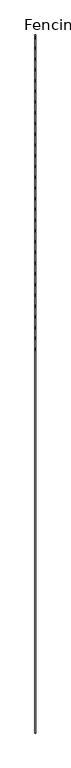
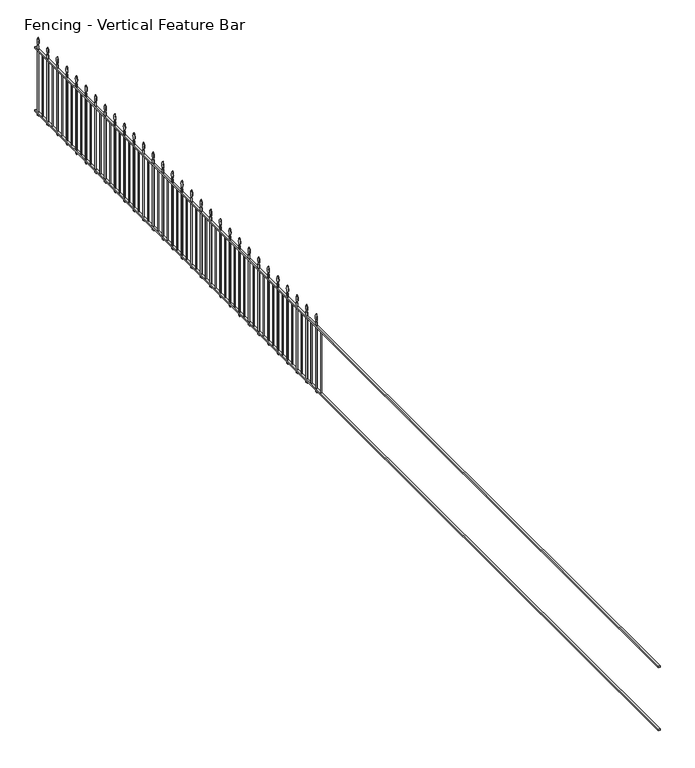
"""IFC4 building model written with IfcOpenShell, lengths in millimetres: railing geometry, Fencing - Vertical Feature Bar."""

from ifc_helpers import new_model, si_unit, point, frame, frame_2d, origin, place, context, project, spatial, polyline, circle_curve, trimmed, segment, composite_curve, outline, extrude, source, transform, mapped, element, save


def fencing_vertical_feature_bar_1ee3314e(model_context):
    return source(origin(), model_context, "Body", "SweptSolid", [
        extrude(outline(polyline([(46183.4324334, -56479.0868221), (46163.4324334, -56479.0868221), (46163.4324334, -43479.0868221), (46183.4324334, -43479.0868221), (46183.4324334, -56479.0868221)])), frame((0.0, 0.0, 880.0), z_axis=(0.0, 0.0, 1.0), x_axis=(1.0, 0.0, 0.0)), (0.0, 0.0, 1.0), 20.0),
        extrude(outline(polyline([(46183.4324334, -56479.0868221), (46163.4324334, -56479.0868221), (46163.4324334, -43479.0868221), (46183.4324334, -43479.0868221), (46183.4324334, -56479.0868221)])), frame((0.0, 0.0, 80.0), z_axis=(0.0, 0.0, 1.0), x_axis=(1.0, 0.0, 0.0)), (0.0, 0.0, 1.0), 20.0),
        extrude(outline(composite_curve([segment(polyline([(-43531.9450079, 950.0), (-43531.9450079, 955.0)]), True, "CONTINUOUS"), segment(trimmed(circle_curve(frame_2d((-43478.8047438, 998.5697142)), 68.7183212), [point((-43531.9450079, 955.0))], [point((-43529.0868221, 1045.4090168))], False, "CARTESIAN"), True, "CONTINUOUS"), segment(trimmed(circle_curve(frame_2d((-43579.3689003, 998.5697142)), 68.7183212), [point((-43529.0868221, 1045.4090168))], [point((-43526.2286362, 955.0))], False, "CARTESIAN"), True, "CONTINUOUS"), segment(polyline([(-43526.2286362, 955.0), (-43526.2286362, 950.0), (-43531.9450079, 950.0)]), True, "CONTINUOUS")], self_intersect=False)), frame((46170.9324334, 0.0, 0.0), z_axis=(1.0, 0.0, 0.0), x_axis=(0.0, 1.0, 0.0)), (0.0, 0.0, 1.0), 5.0),
        extrude(outline(polyline([(46170.9324334, -43516.5868221), (46175.9324334, -43516.5868221), (46175.9324334, -43541.5868221), (46170.9324334, -43541.5868221), (46170.9324334, -43516.5868221)])), frame((0.0, 0.0, 50.0), z_axis=(0.0, 0.0, 1.0), x_axis=(1.0, 0.0, 0.0)), (0.0, 0.0, 1.0), 900.0),
        extrude(outline(polyline([(46177.4324334, -43633.0868221), (46169.4324334, -43633.0868221), (46169.4324334, -43625.0868221), (46177.4324334, -43625.0868221), (46177.4324334, -43633.0868221)])), frame((0.0, 0.0, 100.0), z_axis=(0.0, 0.0, 1.0), x_axis=(1.0, 0.0, 0.0)), (0.0, 0.0, 1.0), 780.0),
        extrude(outline(composite_curve([segment(polyline([(-43731.9450079, 950.0), (-43731.9450079, 955.0)]), True, "CONTINUOUS"), segment(trimmed(circle_curve(frame_2d((-43678.8047438, 998.5697142)), 68.7183212), [point((-43731.9450079, 955.0))], [point((-43729.0868221, 1045.4090168))], False, "CARTESIAN"), True, "CONTINUOUS"), segment(trimmed(circle_curve(frame_2d((-43779.3689003, 998.5697142)), 68.7183212), [point((-43729.0868221, 1045.4090168))], [point((-43726.2286362, 955.0))], False, "CARTESIAN"), True, "CONTINUOUS"), segment(polyline([(-43726.2286362, 955.0), (-43726.2286362, 950.0), (-43731.9450079, 950.0)]), True, "CONTINUOUS")], self_intersect=False)), frame((46170.9324334, 0.0, 0.0), z_axis=(1.0, 0.0, 0.0), x_axis=(0.0, 1.0, 0.0)), (0.0, 0.0, 1.0), 5.0),
        extrude(outline(polyline([(46170.9324334, -43716.5868221), (46175.9324334, -43716.5868221), (46175.9324334, -43741.5868221), (46170.9324334, -43741.5868221), (46170.9324334, -43716.5868221)])), frame((0.0, 0.0, 50.0), z_axis=(0.0, 0.0, 1.0), x_axis=(1.0, 0.0, 0.0)), (0.0, 0.0, 1.0), 900.0),
        extrude(outline(polyline([(46177.4324334, -43833.0868221), (46169.4324334, -43833.0868221), (46169.4324334, -43825.0868221), (46177.4324334, -43825.0868221), (46177.4324334, -43833.0868221)])), frame((0.0, 0.0, 100.0), z_axis=(0.0, 0.0, 1.0), x_axis=(1.0, 0.0, 0.0)), (0.0, 0.0, 1.0), 780.0),
        extrude(outline(composite_curve([segment(polyline([(-43931.9450079, 950.0), (-43931.9450079, 955.0)]), True, "CONTINUOUS"), segment(trimmed(circle_curve(frame_2d((-43878.8047438, 998.5697142)), 68.7183212), [point((-43931.9450079, 955.0))], [point((-43929.0868221, 1045.4090168))], False, "CARTESIAN"), True, "CONTINUOUS"), segment(trimmed(circle_curve(frame_2d((-43979.3689003, 998.5697142)), 68.7183212), [point((-43929.0868221, 1045.4090168))], [point((-43926.2286362, 955.0))], False, "CARTESIAN"), True, "CONTINUOUS"), segment(polyline([(-43926.2286362, 955.0), (-43926.2286362, 950.0), (-43931.9450079, 950.0)]), True, "CONTINUOUS")], self_intersect=False)), frame((46170.9324334, 0.0, 0.0), z_axis=(1.0, 0.0, 0.0), x_axis=(0.0, 1.0, 0.0)), (0.0, 0.0, 1.0), 5.0),
        extrude(outline(polyline([(46170.9324334, -43916.5868221), (46175.9324334, -43916.5868221), (46175.9324334, -43941.5868221), (46170.9324334, -43941.5868221), (46170.9324334, -43916.5868221)])), frame((0.0, 0.0, 50.0), z_axis=(0.0, 0.0, 1.0), x_axis=(1.0, 0.0, 0.0)), (0.0, 0.0, 1.0), 900.0),
        extrude(outline(polyline([(46177.4324334, -44033.0868221), (46169.4324334, -44033.0868221), (46169.4324334, -44025.0868221), (46177.4324334, -44025.0868221), (46177.4324334, -44033.0868221)])), frame((0.0, 0.0, 100.0), z_axis=(0.0, 0.0, 1.0), x_axis=(1.0, 0.0, 0.0)), (0.0, 0.0, 1.0), 780.0),
        extrude(outline(composite_curve([segment(polyline([(-44131.9450079, 950.0), (-44131.9450079, 955.0)]), True, "CONTINUOUS"), segment(trimmed(circle_curve(frame_2d((-44078.8047438, 998.5697142)), 68.7183212), [point((-44131.9450079, 955.0))], [point((-44129.0868221, 1045.4090168))], False, "CARTESIAN"), True, "CONTINUOUS"), segment(trimmed(circle_curve(frame_2d((-44179.3689003, 998.5697142)), 68.7183212), [point((-44129.0868221, 1045.4090168))], [point((-44126.2286362, 955.0))], False, "CARTESIAN"), True, "CONTINUOUS"), segment(polyline([(-44126.2286362, 955.0), (-44126.2286362, 950.0), (-44131.9450079, 950.0)]), True, "CONTINUOUS")], self_intersect=False)), frame((46170.9324334, 0.0, 0.0), z_axis=(1.0, 0.0, 0.0), x_axis=(0.0, 1.0, 0.0)), (0.0, 0.0, 1.0), 5.0),
        extrude(outline(polyline([(46170.9324334, -44116.5868221), (46175.9324334, -44116.5868221), (46175.9324334, -44141.5868221), (46170.9324334, -44141.5868221), (46170.9324334, -44116.5868221)])), frame((0.0, 0.0, 50.0), z_axis=(0.0, 0.0, 1.0), x_axis=(1.0, 0.0, 0.0)), (0.0, 0.0, 1.0), 900.0),
        extrude(outline(polyline([(46177.4324334, -44233.0868221), (46169.4324334, -44233.0868221), (46169.4324334, -44225.0868221), (46177.4324334, -44225.0868221), (46177.4324334, -44233.0868221)])), frame((0.0, 0.0, 100.0), z_axis=(0.0, 0.0, 1.0), x_axis=(1.0, 0.0, 0.0)), (0.0, 0.0, 1.0), 780.0),
        extrude(outline(composite_curve([segment(polyline([(-44331.9450079, 950.0), (-44331.9450079, 955.0)]), True, "CONTINUOUS"), segment(trimmed(circle_curve(frame_2d((-44278.8047438, 998.5697142)), 68.7183212), [point((-44331.9450079, 955.0))], [point((-44329.0868221, 1045.4090168))], False, "CARTESIAN"), True, "CONTINUOUS"), segment(trimmed(circle_curve(frame_2d((-44379.3689003, 998.5697142)), 68.7183212), [point((-44329.0868221, 1045.4090168))], [point((-44326.2286362, 955.0))], False, "CARTESIAN"), True, "CONTINUOUS"), segment(polyline([(-44326.2286362, 955.0), (-44326.2286362, 950.0), (-44331.9450079, 950.0)]), True, "CONTINUOUS")], self_intersect=False)), frame((46170.9324334, 0.0, 0.0), z_axis=(1.0, 0.0, 0.0), x_axis=(0.0, 1.0, 0.0)), (0.0, 0.0, 1.0), 5.0),
        extrude(outline(polyline([(46170.9324334, -44316.5868221), (46175.9324334, -44316.5868221), (46175.9324334, -44341.5868221), (46170.9324334, -44341.5868221), (46170.9324334, -44316.5868221)])), frame((0.0, 0.0, 50.0), z_axis=(0.0, 0.0, 1.0), x_axis=(1.0, 0.0, 0.0)), (0.0, 0.0, 1.0), 900.0),
        extrude(outline(polyline([(46177.4324334, -44433.0868221), (46169.4324334, -44433.0868221), (46169.4324334, -44425.0868221), (46177.4324334, -44425.0868221), (46177.4324334, -44433.0868221)])), frame((0.0, 0.0, 100.0), z_axis=(0.0, 0.0, 1.0), x_axis=(1.0, 0.0, 0.0)), (0.0, 0.0, 1.0), 780.0),
        extrude(outline(composite_curve([segment(polyline([(-44531.9450079, 950.0), (-44531.9450079, 955.0)]), True, "CONTINUOUS"), segment(trimmed(circle_curve(frame_2d((-44478.8047438, 998.5697142)), 68.7183212), [point((-44531.9450079, 955.0))], [point((-44529.0868221, 1045.4090168))], False, "CARTESIAN"), True, "CONTINUOUS"), segment(trimmed(circle_curve(frame_2d((-44579.3689003, 998.5697142)), 68.7183212), [point((-44529.0868221, 1045.4090168))], [point((-44526.2286362, 955.0))], False, "CARTESIAN"), True, "CONTINUOUS"), segment(polyline([(-44526.2286362, 955.0), (-44526.2286362, 950.0), (-44531.9450079, 950.0)]), True, "CONTINUOUS")], self_intersect=False)), frame((46170.9324334, 0.0, 0.0), z_axis=(1.0, 0.0, 0.0), x_axis=(0.0, 1.0, 0.0)), (0.0, 0.0, 1.0), 5.0),
        extrude(outline(polyline([(46170.9324334, -44516.5868221), (46175.9324334, -44516.5868221), (46175.9324334, -44541.5868221), (46170.9324334, -44541.5868221), (46170.9324334, -44516.5868221)])), frame((0.0, 0.0, 50.0), z_axis=(0.0, 0.0, 1.0), x_axis=(1.0, 0.0, 0.0)), (0.0, 0.0, 1.0), 900.0),
        extrude(outline(polyline([(46177.4324334, -44633.0868221), (46169.4324334, -44633.0868221), (46169.4324334, -44625.0868221), (46177.4324334, -44625.0868221), (46177.4324334, -44633.0868221)])), frame((0.0, 0.0, 100.0), z_axis=(0.0, 0.0, 1.0), x_axis=(1.0, 0.0, 0.0)), (0.0, 0.0, 1.0), 780.0),
        extrude(outline(composite_curve([segment(polyline([(-44731.9450079, 950.0), (-44731.9450079, 955.0)]), True, "CONTINUOUS"), segment(trimmed(circle_curve(frame_2d((-44678.8047438, 998.5697142)), 68.7183212), [point((-44731.9450079, 955.0))], [point((-44729.0868221, 1045.4090168))], False, "CARTESIAN"), True, "CONTINUOUS"), segment(trimmed(circle_curve(frame_2d((-44779.3689003, 998.5697142)), 68.7183212), [point((-44729.0868221, 1045.4090168))], [point((-44726.2286362, 955.0))], False, "CARTESIAN"), True, "CONTINUOUS"), segment(polyline([(-44726.2286362, 955.0), (-44726.2286362, 950.0), (-44731.9450079, 950.0)]), True, "CONTINUOUS")], self_intersect=False)), frame((46170.9324334, 0.0, 0.0), z_axis=(1.0, 0.0, 0.0), x_axis=(0.0, 1.0, 0.0)), (0.0, 0.0, 1.0), 5.0),
        extrude(outline(polyline([(46170.9324334, -44716.5868221), (46175.9324334, -44716.5868221), (46175.9324334, -44741.5868221), (46170.9324334, -44741.5868221), (46170.9324334, -44716.5868221)])), frame((0.0, 0.0, 50.0), z_axis=(0.0, 0.0, 1.0), x_axis=(1.0, 0.0, 0.0)), (0.0, 0.0, 1.0), 900.0),
        extrude(outline(polyline([(46177.4324334, -44833.0868221), (46169.4324334, -44833.0868221), (46169.4324334, -44825.0868221), (46177.4324334, -44825.0868221), (46177.4324334, -44833.0868221)])), frame((0.0, 0.0, 100.0), z_axis=(0.0, 0.0, 1.0), x_axis=(1.0, 0.0, 0.0)), (0.0, 0.0, 1.0), 780.0),
        extrude(outline(composite_curve([segment(polyline([(-44931.9450079, 950.0), (-44931.9450079, 955.0)]), True, "CONTINUOUS"), segment(trimmed(circle_curve(frame_2d((-44878.8047438, 998.5697142)), 68.7183212), [point((-44931.9450079, 955.0))], [point((-44929.0868221, 1045.4090168))], False, "CARTESIAN"), True, "CONTINUOUS"), segment(trimmed(circle_curve(frame_2d((-44979.3689003, 998.5697142)), 68.7183212), [point((-44929.0868221, 1045.4090168))], [point((-44926.2286362, 955.0))], False, "CARTESIAN"), True, "CONTINUOUS"), segment(polyline([(-44926.2286362, 955.0), (-44926.2286362, 950.0), (-44931.9450079, 950.0)]), True, "CONTINUOUS")], self_intersect=False)), frame((46170.9324334, 0.0, 0.0), z_axis=(1.0, 0.0, 0.0), x_axis=(0.0, 1.0, 0.0)), (0.0, 0.0, 1.0), 5.0),
        extrude(outline(polyline([(46170.9324334, -44916.5868221), (46175.9324334, -44916.5868221), (46175.9324334, -44941.5868221), (46170.9324334, -44941.5868221), (46170.9324334, -44916.5868221)])), frame((0.0, 0.0, 50.0), z_axis=(0.0, 0.0, 1.0), x_axis=(1.0, 0.0, 0.0)), (0.0, 0.0, 1.0), 900.0),
        extrude(outline(polyline([(46177.4324334, -45033.0868221), (46169.4324334, -45033.0868221), (46169.4324334, -45025.0868221), (46177.4324334, -45025.0868221), (46177.4324334, -45033.0868221)])), frame((0.0, 0.0, 100.0), z_axis=(0.0, 0.0, 1.0), x_axis=(1.0, 0.0, 0.0)), (0.0, 0.0, 1.0), 780.0),
        extrude(outline(composite_curve([segment(polyline([(-45131.9450079, 950.0), (-45131.9450079, 955.0)]), True, "CONTINUOUS"), segment(trimmed(circle_curve(frame_2d((-45078.8047438, 998.5697142)), 68.7183212), [point((-45131.9450079, 955.0))], [point((-45129.0868221, 1045.4090168))], False, "CARTESIAN"), True, "CONTINUOUS"), segment(trimmed(circle_curve(frame_2d((-45179.3689003, 998.5697142)), 68.7183212), [point((-45129.0868221, 1045.4090168))], [point((-45126.2286362, 955.0))], False, "CARTESIAN"), True, "CONTINUOUS"), segment(polyline([(-45126.2286362, 955.0), (-45126.2286362, 950.0), (-45131.9450079, 950.0)]), True, "CONTINUOUS")], self_intersect=False)), frame((46170.9324334, 0.0, 0.0), z_axis=(1.0, 0.0, 0.0), x_axis=(0.0, 1.0, 0.0)), (0.0, 0.0, 1.0), 5.0),
        extrude(outline(polyline([(46170.9324334, -45116.5868221), (46175.9324334, -45116.5868221), (46175.9324334, -45141.5868221), (46170.9324334, -45141.5868221), (46170.9324334, -45116.5868221)])), frame((0.0, 0.0, 50.0), z_axis=(0.0, 0.0, 1.0), x_axis=(1.0, 0.0, 0.0)), (0.0, 0.0, 1.0), 900.0),
        extrude(outline(polyline([(46177.4324334, -45233.0868221), (46169.4324334, -45233.0868221), (46169.4324334, -45225.0868221), (46177.4324334, -45225.0868221), (46177.4324334, -45233.0868221)])), frame((0.0, 0.0, 100.0), z_axis=(0.0, 0.0, 1.0), x_axis=(1.0, 0.0, 0.0)), (0.0, 0.0, 1.0), 780.0),
        extrude(outline(composite_curve([segment(polyline([(-45331.9450079, 950.0), (-45331.9450079, 955.0)]), True, "CONTINUOUS"), segment(trimmed(circle_curve(frame_2d((-45278.8047438, 998.5697142)), 68.7183212), [point((-45331.9450079, 955.0))], [point((-45329.0868221, 1045.4090168))], False, "CARTESIAN"), True, "CONTINUOUS"), segment(trimmed(circle_curve(frame_2d((-45379.3689003, 998.5697142)), 68.7183212), [point((-45329.0868221, 1045.4090168))], [point((-45326.2286362, 955.0))], False, "CARTESIAN"), True, "CONTINUOUS"), segment(polyline([(-45326.2286362, 955.0), (-45326.2286362, 950.0), (-45331.9450079, 950.0)]), True, "CONTINUOUS")], self_intersect=False)), frame((46170.9324334, 0.0, 0.0), z_axis=(1.0, 0.0, 0.0), x_axis=(0.0, 1.0, 0.0)), (0.0, 0.0, 1.0), 5.0),
        extrude(outline(polyline([(46170.9324334, -45316.5868221), (46175.9324334, -45316.5868221), (46175.9324334, -45341.5868221), (46170.9324334, -45341.5868221), (46170.9324334, -45316.5868221)])), frame((0.0, 0.0, 50.0), z_axis=(0.0, 0.0, 1.0), x_axis=(1.0, 0.0, 0.0)), (0.0, 0.0, 1.0), 900.0),
        extrude(outline(polyline([(46177.4324334, -45433.0868221), (46169.4324334, -45433.0868221), (46169.4324334, -45425.0868221), (46177.4324334, -45425.0868221), (46177.4324334, -45433.0868221)])), frame((0.0, 0.0, 100.0), z_axis=(0.0, 0.0, 1.0), x_axis=(1.0, 0.0, 0.0)), (0.0, 0.0, 1.0), 780.0),
        extrude(outline(composite_curve([segment(polyline([(-45531.9450079, 950.0), (-45531.9450079, 955.0)]), True, "CONTINUOUS"), segment(trimmed(circle_curve(frame_2d((-45478.8047438, 998.5697142)), 68.7183212), [point((-45531.9450079, 955.0))], [point((-45529.0868221, 1045.4090168))], False, "CARTESIAN"), True, "CONTINUOUS"), segment(trimmed(circle_curve(frame_2d((-45579.3689003, 998.5697142)), 68.7183212), [point((-45529.0868221, 1045.4090168))], [point((-45526.2286362, 955.0))], False, "CARTESIAN"), True, "CONTINUOUS"), segment(polyline([(-45526.2286362, 955.0), (-45526.2286362, 950.0), (-45531.9450079, 950.0)]), True, "CONTINUOUS")], self_intersect=False)), frame((46170.9324334, 0.0, 0.0), z_axis=(1.0, 0.0, 0.0), x_axis=(0.0, 1.0, 0.0)), (0.0, 0.0, 1.0), 5.0),
        extrude(outline(polyline([(46170.9324334, -45516.5868221), (46175.9324334, -45516.5868221), (46175.9324334, -45541.5868221), (46170.9324334, -45541.5868221), (46170.9324334, -45516.5868221)])), frame((0.0, 0.0, 50.0), z_axis=(0.0, 0.0, 1.0), x_axis=(1.0, 0.0, 0.0)), (0.0, 0.0, 1.0), 900.0),
        extrude(outline(polyline([(46177.4324334, -45633.0868221), (46169.4324334, -45633.0868221), (46169.4324334, -45625.0868221), (46177.4324334, -45625.0868221), (46177.4324334, -45633.0868221)])), frame((0.0, 0.0, 100.0), z_axis=(0.0, 0.0, 1.0), x_axis=(1.0, 0.0, 0.0)), (0.0, 0.0, 1.0), 780.0),
        extrude(outline(composite_curve([segment(polyline([(-45731.9450079, 950.0), (-45731.9450079, 955.0)]), True, "CONTINUOUS"), segment(trimmed(circle_curve(frame_2d((-45678.8047438, 998.5697142)), 68.7183212), [point((-45731.9450079, 955.0))], [point((-45729.0868221, 1045.4090168))], False, "CARTESIAN"), True, "CONTINUOUS"), segment(trimmed(circle_curve(frame_2d((-45779.3689003, 998.5697142)), 68.7183212), [point((-45729.0868221, 1045.4090168))], [point((-45726.2286362, 955.0))], False, "CARTESIAN"), True, "CONTINUOUS"), segment(polyline([(-45726.2286362, 955.0), (-45726.2286362, 950.0), (-45731.9450079, 950.0)]), True, "CONTINUOUS")], self_intersect=False)), frame((46170.9324334, 0.0, 0.0), z_axis=(1.0, 0.0, 0.0), x_axis=(0.0, 1.0, 0.0)), (0.0, 0.0, 1.0), 5.0),
        extrude(outline(polyline([(46170.9324334, -45716.5868221), (46175.9324334, -45716.5868221), (46175.9324334, -45741.5868221), (46170.9324334, -45741.5868221), (46170.9324334, -45716.5868221)])), frame((0.0, 0.0, 50.0), z_axis=(0.0, 0.0, 1.0), x_axis=(1.0, 0.0, 0.0)), (0.0, 0.0, 1.0), 900.0),
        extrude(outline(polyline([(46177.4324334, -45833.0868221), (46169.4324334, -45833.0868221), (46169.4324334, -45825.0868221), (46177.4324334, -45825.0868221), (46177.4324334, -45833.0868221)])), frame((0.0, 0.0, 100.0), z_axis=(0.0, 0.0, 1.0), x_axis=(1.0, 0.0, 0.0)), (0.0, 0.0, 1.0), 780.0),
        extrude(outline(composite_curve([segment(polyline([(-45931.9450079, 950.0), (-45931.9450079, 955.0)]), True, "CONTINUOUS"), segment(trimmed(circle_curve(frame_2d((-45878.8047438, 998.5697142)), 68.7183212), [point((-45931.9450079, 955.0))], [point((-45929.0868221, 1045.4090168))], False, "CARTESIAN"), True, "CONTINUOUS"), segment(trimmed(circle_curve(frame_2d((-45979.3689003, 998.5697142)), 68.7183212), [point((-45929.0868221, 1045.4090168))], [point((-45926.2286362, 955.0))], False, "CARTESIAN"), True, "CONTINUOUS"), segment(polyline([(-45926.2286362, 955.0), (-45926.2286362, 950.0), (-45931.9450079, 950.0)]), True, "CONTINUOUS")], self_intersect=False)), frame((46170.9324334, 0.0, 0.0), z_axis=(1.0, 0.0, 0.0), x_axis=(0.0, 1.0, 0.0)), (0.0, 0.0, 1.0), 5.0),
        extrude(outline(polyline([(46170.9324334, -45916.5868221), (46175.9324334, -45916.5868221), (46175.9324334, -45941.5868221), (46170.9324334, -45941.5868221), (46170.9324334, -45916.5868221)])), frame((0.0, 0.0, 50.0), z_axis=(0.0, 0.0, 1.0), x_axis=(1.0, 0.0, 0.0)), (0.0, 0.0, 1.0), 900.0),
        extrude(outline(polyline([(46177.4324334, -46033.0868221), (46169.4324334, -46033.0868221), (46169.4324334, -46025.0868221), (46177.4324334, -46025.0868221), (46177.4324334, -46033.0868221)])), frame((0.0, 0.0, 100.0), z_axis=(0.0, 0.0, 1.0), x_axis=(1.0, 0.0, 0.0)), (0.0, 0.0, 1.0), 780.0),
        extrude(outline(composite_curve([segment(polyline([(-46131.9450079, 950.0), (-46131.9450079, 955.0)]), True, "CONTINUOUS"), segment(trimmed(circle_curve(frame_2d((-46078.8047438, 998.5697142)), 68.7183212), [point((-46131.9450079, 955.0))], [point((-46129.0868221, 1045.4090168))], False, "CARTESIAN"), True, "CONTINUOUS"), segment(trimmed(circle_curve(frame_2d((-46179.3689003, 998.5697142)), 68.7183212), [point((-46129.0868221, 1045.4090168))], [point((-46126.2286362, 955.0))], False, "CARTESIAN"), True, "CONTINUOUS"), segment(polyline([(-46126.2286362, 955.0), (-46126.2286362, 950.0), (-46131.9450079, 950.0)]), True, "CONTINUOUS")], self_intersect=False)), frame((46170.9324334, 0.0, 0.0), z_axis=(1.0, 0.0, 0.0), x_axis=(0.0, 1.0, 0.0)), (0.0, 0.0, 1.0), 5.0),
        extrude(outline(polyline([(46170.9324334, -46116.5868221), (46175.9324334, -46116.5868221), (46175.9324334, -46141.5868221), (46170.9324334, -46141.5868221), (46170.9324334, -46116.5868221)])), frame((0.0, 0.0, 50.0), z_axis=(0.0, 0.0, 1.0), x_axis=(1.0, 0.0, 0.0)), (0.0, 0.0, 1.0), 900.0),
        extrude(outline(polyline([(46177.4324334, -46233.0868221), (46169.4324334, -46233.0868221), (46169.4324334, -46225.0868221), (46177.4324334, -46225.0868221), (46177.4324334, -46233.0868221)])), frame((0.0, 0.0, 100.0), z_axis=(0.0, 0.0, 1.0), x_axis=(1.0, 0.0, 0.0)), (0.0, 0.0, 1.0), 780.0),
        extrude(outline(composite_curve([segment(polyline([(-46331.9450079, 950.0), (-46331.9450079, 955.0)]), True, "CONTINUOUS"), segment(trimmed(circle_curve(frame_2d((-46278.8047438, 998.5697142)), 68.7183212), [point((-46331.9450079, 955.0))], [point((-46329.0868221, 1045.4090168))], False, "CARTESIAN"), True, "CONTINUOUS"), segment(trimmed(circle_curve(frame_2d((-46379.3689003, 998.5697142)), 68.7183212), [point((-46329.0868221, 1045.4090168))], [point((-46326.2286362, 955.0))], False, "CARTESIAN"), True, "CONTINUOUS"), segment(polyline([(-46326.2286362, 955.0), (-46326.2286362, 950.0), (-46331.9450079, 950.0)]), True, "CONTINUOUS")], self_intersect=False)), frame((46170.9324334, 0.0, 0.0), z_axis=(1.0, 0.0, 0.0), x_axis=(0.0, 1.0, 0.0)), (0.0, 0.0, 1.0), 5.0),
        extrude(outline(polyline([(46170.9324334, -46316.5868221), (46175.9324334, -46316.5868221), (46175.9324334, -46341.5868221), (46170.9324334, -46341.5868221), (46170.9324334, -46316.5868221)])), frame((0.0, 0.0, 50.0), z_axis=(0.0, 0.0, 1.0), x_axis=(1.0, 0.0, 0.0)), (0.0, 0.0, 1.0), 900.0),
        extrude(outline(polyline([(46177.4324334, -46433.0868221), (46169.4324334, -46433.0868221), (46169.4324334, -46425.0868221), (46177.4324334, -46425.0868221), (46177.4324334, -46433.0868221)])), frame((0.0, 0.0, 100.0), z_axis=(0.0, 0.0, 1.0), x_axis=(1.0, 0.0, 0.0)), (0.0, 0.0, 1.0), 780.0),
        extrude(outline(composite_curve([segment(polyline([(-46531.9450079, 950.0), (-46531.9450079, 955.0)]), True, "CONTINUOUS"), segment(trimmed(circle_curve(frame_2d((-46478.8047438, 998.5697142)), 68.7183212), [point((-46531.9450079, 955.0))], [point((-46529.0868221, 1045.4090168))], False, "CARTESIAN"), True, "CONTINUOUS"), segment(trimmed(circle_curve(frame_2d((-46579.3689003, 998.5697142)), 68.7183212), [point((-46529.0868221, 1045.4090168))], [point((-46526.2286362, 955.0))], False, "CARTESIAN"), True, "CONTINUOUS"), segment(polyline([(-46526.2286362, 955.0), (-46526.2286362, 950.0), (-46531.9450079, 950.0)]), True, "CONTINUOUS")], self_intersect=False)), frame((46170.9324334, 0.0, 0.0), z_axis=(1.0, 0.0, 0.0), x_axis=(0.0, 1.0, 0.0)), (0.0, 0.0, 1.0), 5.0),
        extrude(outline(polyline([(46170.9324334, -46516.5868221), (46175.9324334, -46516.5868221), (46175.9324334, -46541.5868221), (46170.9324334, -46541.5868221), (46170.9324334, -46516.5868221)])), frame((0.0, 0.0, 50.0), z_axis=(0.0, 0.0, 1.0), x_axis=(1.0, 0.0, 0.0)), (0.0, 0.0, 1.0), 900.0),
        extrude(outline(polyline([(46177.4324334, -46633.0868221), (46169.4324334, -46633.0868221), (46169.4324334, -46625.0868221), (46177.4324334, -46625.0868221), (46177.4324334, -46633.0868221)])), frame((0.0, 0.0, 100.0), z_axis=(0.0, 0.0, 1.0), x_axis=(1.0, 0.0, 0.0)), (0.0, 0.0, 1.0), 780.0),
        extrude(outline(composite_curve([segment(polyline([(-46731.9450079, 950.0), (-46731.9450079, 955.0)]), True, "CONTINUOUS"), segment(trimmed(circle_curve(frame_2d((-46678.8047438, 998.5697142)), 68.7183212), [point((-46731.9450079, 955.0))], [point((-46729.0868221, 1045.4090168))], False, "CARTESIAN"), True, "CONTINUOUS"), segment(trimmed(circle_curve(frame_2d((-46779.3689003, 998.5697142)), 68.7183212), [point((-46729.0868221, 1045.4090168))], [point((-46726.2286362, 955.0))], False, "CARTESIAN"), True, "CONTINUOUS"), segment(polyline([(-46726.2286362, 955.0), (-46726.2286362, 950.0), (-46731.9450079, 950.0)]), True, "CONTINUOUS")], self_intersect=False)), frame((46170.9324334, 0.0, 0.0), z_axis=(1.0, 0.0, 0.0), x_axis=(0.0, 1.0, 0.0)), (0.0, 0.0, 1.0), 5.0),
        extrude(outline(polyline([(46170.9324334, -46716.5868221), (46175.9324334, -46716.5868221), (46175.9324334, -46741.5868221), (46170.9324334, -46741.5868221), (46170.9324334, -46716.5868221)])), frame((0.0, 0.0, 50.0), z_axis=(0.0, 0.0, 1.0), x_axis=(1.0, 0.0, 0.0)), (0.0, 0.0, 1.0), 900.0),
        extrude(outline(polyline([(46177.4324334, -46833.0868221), (46169.4324334, -46833.0868221), (46169.4324334, -46825.0868221), (46177.4324334, -46825.0868221), (46177.4324334, -46833.0868221)])), frame((0.0, 0.0, 100.0), z_axis=(0.0, 0.0, 1.0), x_axis=(1.0, 0.0, 0.0)), (0.0, 0.0, 1.0), 780.0),
        extrude(outline(composite_curve([segment(polyline([(-46931.9450079, 950.0), (-46931.9450079, 955.0)]), True, "CONTINUOUS"), segment(trimmed(circle_curve(frame_2d((-46878.8047438, 998.5697142)), 68.7183212), [point((-46931.9450079, 955.0))], [point((-46929.0868221, 1045.4090168))], False, "CARTESIAN"), True, "CONTINUOUS"), segment(trimmed(circle_curve(frame_2d((-46979.3689003, 998.5697142)), 68.7183212), [point((-46929.0868221, 1045.4090168))], [point((-46926.2286362, 955.0))], False, "CARTESIAN"), True, "CONTINUOUS"), segment(polyline([(-46926.2286362, 955.0), (-46926.2286362, 950.0), (-46931.9450079, 950.0)]), True, "CONTINUOUS")], self_intersect=False)), frame((46170.9324334, 0.0, 0.0), z_axis=(1.0, 0.0, 0.0), x_axis=(0.0, 1.0, 0.0)), (0.0, 0.0, 1.0), 5.0),
        extrude(outline(polyline([(46170.9324334, -46916.5868221), (46175.9324334, -46916.5868221), (46175.9324334, -46941.5868221), (46170.9324334, -46941.5868221), (46170.9324334, -46916.5868221)])), frame((0.0, 0.0, 50.0), z_axis=(0.0, 0.0, 1.0), x_axis=(1.0, 0.0, 0.0)), (0.0, 0.0, 1.0), 900.0),
        extrude(outline(polyline([(46177.4324334, -47033.0868221), (46169.4324334, -47033.0868221), (46169.4324334, -47025.0868221), (46177.4324334, -47025.0868221), (46177.4324334, -47033.0868221)])), frame((0.0, 0.0, 100.0), z_axis=(0.0, 0.0, 1.0), x_axis=(1.0, 0.0, 0.0)), (0.0, 0.0, 1.0), 780.0),
        extrude(outline(composite_curve([segment(polyline([(-47131.9450079, 950.0), (-47131.9450079, 955.0)]), True, "CONTINUOUS"), segment(trimmed(circle_curve(frame_2d((-47078.8047438, 998.5697142)), 68.7183212), [point((-47131.9450079, 955.0))], [point((-47129.0868221, 1045.4090168))], False, "CARTESIAN"), True, "CONTINUOUS"), segment(trimmed(circle_curve(frame_2d((-47179.3689003, 998.5697142)), 68.7183212), [point((-47129.0868221, 1045.4090168))], [point((-47126.2286362, 955.0))], False, "CARTESIAN"), True, "CONTINUOUS"), segment(polyline([(-47126.2286362, 955.0), (-47126.2286362, 950.0), (-47131.9450079, 950.0)]), True, "CONTINUOUS")], self_intersect=False)), frame((46170.9324334, 0.0, 0.0), z_axis=(1.0, 0.0, 0.0), x_axis=(0.0, 1.0, 0.0)), (0.0, 0.0, 1.0), 5.0),
        extrude(outline(polyline([(46170.9324334, -47116.5868221), (46175.9324334, -47116.5868221), (46175.9324334, -47141.5868221), (46170.9324334, -47141.5868221), (46170.9324334, -47116.5868221)])), frame((0.0, 0.0, 50.0), z_axis=(0.0, 0.0, 1.0), x_axis=(1.0, 0.0, 0.0)), (0.0, 0.0, 1.0), 900.0),
        extrude(outline(polyline([(46177.4324334, -47233.0868221), (46169.4324334, -47233.0868221), (46169.4324334, -47225.0868221), (46177.4324334, -47225.0868221), (46177.4324334, -47233.0868221)])), frame((0.0, 0.0, 100.0), z_axis=(0.0, 0.0, 1.0), x_axis=(1.0, 0.0, 0.0)), (0.0, 0.0, 1.0), 780.0),
        extrude(outline(composite_curve([segment(polyline([(-47331.9450079, 950.0), (-47331.9450079, 955.0)]), True, "CONTINUOUS"), segment(trimmed(circle_curve(frame_2d((-47278.8047438, 998.5697142)), 68.7183212), [point((-47331.9450079, 955.0))], [point((-47329.0868221, 1045.4090168))], False, "CARTESIAN"), True, "CONTINUOUS"), segment(trimmed(circle_curve(frame_2d((-47379.3689003, 998.5697142)), 68.7183212), [point((-47329.0868221, 1045.4090168))], [point((-47326.2286362, 955.0))], False, "CARTESIAN"), True, "CONTINUOUS"), segment(polyline([(-47326.2286362, 955.0), (-47326.2286362, 950.0), (-47331.9450079, 950.0)]), True, "CONTINUOUS")], self_intersect=False)), frame((46170.9324334, 0.0, 0.0), z_axis=(1.0, 0.0, 0.0), x_axis=(0.0, 1.0, 0.0)), (0.0, 0.0, 1.0), 5.0),
        extrude(outline(polyline([(46170.9324334, -47316.5868221), (46175.9324334, -47316.5868221), (46175.9324334, -47341.5868221), (46170.9324334, -47341.5868221), (46170.9324334, -47316.5868221)])), frame((0.0, 0.0, 50.0), z_axis=(0.0, 0.0, 1.0), x_axis=(1.0, 0.0, 0.0)), (0.0, 0.0, 1.0), 900.0),
        extrude(outline(polyline([(46177.4324334, -47433.0868221), (46169.4324334, -47433.0868221), (46169.4324334, -47425.0868221), (46177.4324334, -47425.0868221), (46177.4324334, -47433.0868221)])), frame((0.0, 0.0, 100.0), z_axis=(0.0, 0.0, 1.0), x_axis=(1.0, 0.0, 0.0)), (0.0, 0.0, 1.0), 780.0),
        extrude(outline(composite_curve([segment(polyline([(-47531.9450079, 950.0), (-47531.9450079, 955.0)]), True, "CONTINUOUS"), segment(trimmed(circle_curve(frame_2d((-47478.8047438, 998.5697142)), 68.7183212), [point((-47531.9450079, 955.0))], [point((-47529.0868221, 1045.4090168))], False, "CARTESIAN"), True, "CONTINUOUS"), segment(trimmed(circle_curve(frame_2d((-47579.3689003, 998.5697142)), 68.7183212), [point((-47529.0868221, 1045.4090168))], [point((-47526.2286362, 955.0))], False, "CARTESIAN"), True, "CONTINUOUS"), segment(polyline([(-47526.2286362, 955.0), (-47526.2286362, 950.0), (-47531.9450079, 950.0)]), True, "CONTINUOUS")], self_intersect=False)), frame((46170.9324334, 0.0, 0.0), z_axis=(1.0, 0.0, 0.0), x_axis=(0.0, 1.0, 0.0)), (0.0, 0.0, 1.0), 5.0),
        extrude(outline(polyline([(46170.9324334, -47516.5868221), (46175.9324334, -47516.5868221), (46175.9324334, -47541.5868221), (46170.9324334, -47541.5868221), (46170.9324334, -47516.5868221)])), frame((0.0, 0.0, 50.0), z_axis=(0.0, 0.0, 1.0), x_axis=(1.0, 0.0, 0.0)), (0.0, 0.0, 1.0), 900.0),
        extrude(outline(polyline([(46177.4324334, -47633.0868221), (46169.4324334, -47633.0868221), (46169.4324334, -47625.0868221), (46177.4324334, -47625.0868221), (46177.4324334, -47633.0868221)])), frame((0.0, 0.0, 100.0), z_axis=(0.0, 0.0, 1.0), x_axis=(1.0, 0.0, 0.0)), (0.0, 0.0, 1.0), 780.0),
        extrude(outline(composite_curve([segment(polyline([(-47731.9450079, 950.0), (-47731.9450079, 955.0)]), True, "CONTINUOUS"), segment(trimmed(circle_curve(frame_2d((-47678.8047438, 998.5697142)), 68.7183212), [point((-47731.9450079, 955.0))], [point((-47729.0868221, 1045.4090168))], False, "CARTESIAN"), True, "CONTINUOUS"), segment(trimmed(circle_curve(frame_2d((-47779.3689003, 998.5697142)), 68.7183212), [point((-47729.0868221, 1045.4090168))], [point((-47726.2286362, 955.0))], False, "CARTESIAN"), True, "CONTINUOUS"), segment(polyline([(-47726.2286362, 955.0), (-47726.2286362, 950.0), (-47731.9450079, 950.0)]), True, "CONTINUOUS")], self_intersect=False)), frame((46170.9324334, 0.0, 0.0), z_axis=(1.0, 0.0, 0.0), x_axis=(0.0, 1.0, 0.0)), (0.0, 0.0, 1.0), 5.0),
        extrude(outline(polyline([(46170.9324334, -47716.5868221), (46175.9324334, -47716.5868221), (46175.9324334, -47741.5868221), (46170.9324334, -47741.5868221), (46170.9324334, -47716.5868221)])), frame((0.0, 0.0, 50.0), z_axis=(0.0, 0.0, 1.0), x_axis=(1.0, 0.0, 0.0)), (0.0, 0.0, 1.0), 900.0),
        extrude(outline(polyline([(46177.4324334, -47833.0868221), (46169.4324334, -47833.0868221), (46169.4324334, -47825.0868221), (46177.4324334, -47825.0868221), (46177.4324334, -47833.0868221)])), frame((0.0, 0.0, 100.0), z_axis=(0.0, 0.0, 1.0), x_axis=(1.0, 0.0, 0.0)), (0.0, 0.0, 1.0), 780.0),
        extrude(outline(composite_curve([segment(polyline([(-47931.9450079, 950.0), (-47931.9450079, 955.0)]), True, "CONTINUOUS"), segment(trimmed(circle_curve(frame_2d((-47878.8047438, 998.5697142)), 68.7183212), [point((-47931.9450079, 955.0))], [point((-47929.0868221, 1045.4090168))], False, "CARTESIAN"), True, "CONTINUOUS"), segment(trimmed(circle_curve(frame_2d((-47979.3689003, 998.5697142)), 68.7183212), [point((-47929.0868221, 1045.4090168))], [point((-47926.2286362, 955.0))], False, "CARTESIAN"), True, "CONTINUOUS"), segment(polyline([(-47926.2286362, 955.0), (-47926.2286362, 950.0), (-47931.9450079, 950.0)]), True, "CONTINUOUS")], self_intersect=False)), frame((46170.9324334, 0.0, 0.0), z_axis=(1.0, 0.0, 0.0), x_axis=(0.0, 1.0, 0.0)), (0.0, 0.0, 1.0), 5.0),
        extrude(outline(polyline([(46170.9324334, -47916.5868221), (46175.9324334, -47916.5868221), (46175.9324334, -47941.5868221), (46170.9324334, -47941.5868221), (46170.9324334, -47916.5868221)])), frame((0.0, 0.0, 50.0), z_axis=(0.0, 0.0, 1.0), x_axis=(1.0, 0.0, 0.0)), (0.0, 0.0, 1.0), 900.0),
        extrude(outline(polyline([(46177.4324334, -48033.0868221), (46169.4324334, -48033.0868221), (46169.4324334, -48025.0868221), (46177.4324334, -48025.0868221), (46177.4324334, -48033.0868221)])), frame((0.0, 0.0, 100.0), z_axis=(0.0, 0.0, 1.0), x_axis=(1.0, 0.0, 0.0)), (0.0, 0.0, 1.0), 780.0),
        extrude(outline(composite_curve([segment(polyline([(-48131.9450079, 950.0), (-48131.9450079, 955.0)]), True, "CONTINUOUS"), segment(trimmed(circle_curve(frame_2d((-48078.8047438, 998.5697142)), 68.7183212), [point((-48131.9450079, 955.0))], [point((-48129.0868221, 1045.4090168))], False, "CARTESIAN"), True, "CONTINUOUS"), segment(trimmed(circle_curve(frame_2d((-48179.3689003, 998.5697142)), 68.7183212), [point((-48129.0868221, 1045.4090168))], [point((-48126.2286362, 955.0))], False, "CARTESIAN"), True, "CONTINUOUS"), segment(polyline([(-48126.2286362, 955.0), (-48126.2286362, 950.0), (-48131.9450079, 950.0)]), True, "CONTINUOUS")], self_intersect=False)), frame((46170.9324334, 0.0, 0.0), z_axis=(1.0, 0.0, 0.0), x_axis=(0.0, 1.0, 0.0)), (0.0, 0.0, 1.0), 5.0),
        extrude(outline(polyline([(46170.9324334, -48116.5868221), (46175.9324334, -48116.5868221), (46175.9324334, -48141.5868221), (46170.9324334, -48141.5868221), (46170.9324334, -48116.5868221)])), frame((0.0, 0.0, 50.0), z_axis=(0.0, 0.0, 1.0), x_axis=(1.0, 0.0, 0.0)), (0.0, 0.0, 1.0), 900.0),
        extrude(outline(polyline([(46177.4324334, -48233.0868221), (46169.4324334, -48233.0868221), (46169.4324334, -48225.0868221), (46177.4324334, -48225.0868221), (46177.4324334, -48233.0868221)])), frame((0.0, 0.0, 100.0), z_axis=(0.0, 0.0, 1.0), x_axis=(1.0, 0.0, 0.0)), (0.0, 0.0, 1.0), 780.0),
        extrude(outline(composite_curve([segment(polyline([(-48331.9450079, 950.0), (-48331.9450079, 955.0)]), True, "CONTINUOUS"), segment(trimmed(circle_curve(frame_2d((-48278.8047438, 998.5697142)), 68.7183212), [point((-48331.9450079, 955.0))], [point((-48329.0868221, 1045.4090168))], False, "CARTESIAN"), True, "CONTINUOUS"), segment(trimmed(circle_curve(frame_2d((-48379.3689003, 998.5697142)), 68.7183212), [point((-48329.0868221, 1045.4090168))], [point((-48326.2286362, 955.0))], False, "CARTESIAN"), True, "CONTINUOUS"), segment(polyline([(-48326.2286362, 955.0), (-48326.2286362, 950.0), (-48331.9450079, 950.0)]), True, "CONTINUOUS")], self_intersect=False)), frame((46170.9324334, 0.0, 0.0), z_axis=(1.0, 0.0, 0.0), x_axis=(0.0, 1.0, 0.0)), (0.0, 0.0, 1.0), 5.0),
        extrude(outline(polyline([(46170.9324334, -48316.5868221), (46175.9324334, -48316.5868221), (46175.9324334, -48341.5868221), (46170.9324334, -48341.5868221), (46170.9324334, -48316.5868221)])), frame((0.0, 0.0, 50.0), z_axis=(0.0, 0.0, 1.0), x_axis=(1.0, 0.0, 0.0)), (0.0, 0.0, 1.0), 900.0),
        extrude(outline(polyline([(46177.4324334, -48433.0868221), (46169.4324334, -48433.0868221), (46169.4324334, -48425.0868221), (46177.4324334, -48425.0868221), (46177.4324334, -48433.0868221)])), frame((0.0, 0.0, 100.0), z_axis=(0.0, 0.0, 1.0), x_axis=(1.0, 0.0, 0.0)), (0.0, 0.0, 1.0), 780.0),
        extrude(outline(composite_curve([segment(polyline([(-48531.9450079, 950.0), (-48531.9450079, 955.0)]), True, "CONTINUOUS"), segment(trimmed(circle_curve(frame_2d((-48478.8047438, 998.5697142)), 68.7183212), [point((-48531.9450079, 955.0))], [point((-48529.0868221, 1045.4090168))], False, "CARTESIAN"), True, "CONTINUOUS"), segment(trimmed(circle_curve(frame_2d((-48579.3689003, 998.5697142)), 68.7183212), [point((-48529.0868221, 1045.4090168))], [point((-48526.2286362, 955.0))], False, "CARTESIAN"), True, "CONTINUOUS"), segment(polyline([(-48526.2286362, 955.0), (-48526.2286362, 950.0), (-48531.9450079, 950.0)]), True, "CONTINUOUS")], self_intersect=False)), frame((46170.9324334, 0.0, 0.0), z_axis=(1.0, 0.0, 0.0), x_axis=(0.0, 1.0, 0.0)), (0.0, 0.0, 1.0), 5.0),
        extrude(outline(polyline([(46170.9324334, -48516.5868221), (46175.9324334, -48516.5868221), (46175.9324334, -48541.5868221), (46170.9324334, -48541.5868221), (46170.9324334, -48516.5868221)])), frame((0.0, 0.0, 50.0), z_axis=(0.0, 0.0, 1.0), x_axis=(1.0, 0.0, 0.0)), (0.0, 0.0, 1.0), 900.0),
        extrude(outline(polyline([(46177.4324334, -48633.0868221), (46169.4324334, -48633.0868221), (46169.4324334, -48625.0868221), (46177.4324334, -48625.0868221), (46177.4324334, -48633.0868221)])), frame((0.0, 0.0, 100.0), z_axis=(0.0, 0.0, 1.0), x_axis=(1.0, 0.0, 0.0)), (0.0, 0.0, 1.0), 780.0),
        extrude(outline(composite_curve([segment(polyline([(-48731.9450079, 950.0), (-48731.9450079, 955.0)]), True, "CONTINUOUS"), segment(trimmed(circle_curve(frame_2d((-48678.8047438, 998.5697142)), 68.7183212), [point((-48731.9450079, 955.0))], [point((-48729.0868221, 1045.4090168))], False, "CARTESIAN"), True, "CONTINUOUS"), segment(trimmed(circle_curve(frame_2d((-48779.3689003, 998.5697142)), 68.7183212), [point((-48729.0868221, 1045.4090168))], [point((-48726.2286362, 955.0))], False, "CARTESIAN"), True, "CONTINUOUS"), segment(polyline([(-48726.2286362, 955.0), (-48726.2286362, 950.0), (-48731.9450079, 950.0)]), True, "CONTINUOUS")], self_intersect=False)), frame((46170.9324334, 0.0, 0.0), z_axis=(1.0, 0.0, 0.0), x_axis=(0.0, 1.0, 0.0)), (0.0, 0.0, 1.0), 5.0),
        extrude(outline(polyline([(46170.9324334, -48716.5868221), (46175.9324334, -48716.5868221), (46175.9324334, -48741.5868221), (46170.9324334, -48741.5868221), (46170.9324334, -48716.5868221)])), frame((0.0, 0.0, 50.0), z_axis=(0.0, 0.0, 1.0), x_axis=(1.0, 0.0, 0.0)), (0.0, 0.0, 1.0), 900.0),
        extrude(outline(polyline([(46177.4324334, -48833.0868221), (46169.4324334, -48833.0868221), (46169.4324334, -48825.0868221), (46177.4324334, -48825.0868221), (46177.4324334, -48833.0868221)])), frame((0.0, 0.0, 100.0), z_axis=(0.0, 0.0, 1.0), x_axis=(1.0, 0.0, 0.0)), (0.0, 0.0, 1.0), 780.0),
        extrude(outline(composite_curve([segment(polyline([(-48931.9450079, 950.0), (-48931.9450079, 955.0)]), True, "CONTINUOUS"), segment(trimmed(circle_curve(frame_2d((-48878.8047438, 998.5697142)), 68.7183212), [point((-48931.9450079, 955.0))], [point((-48929.0868221, 1045.4090168))], False, "CARTESIAN"), True, "CONTINUOUS"), segment(trimmed(circle_curve(frame_2d((-48979.3689003, 998.5697142)), 68.7183212), [point((-48929.0868221, 1045.4090168))], [point((-48926.2286362, 955.0))], False, "CARTESIAN"), True, "CONTINUOUS"), segment(polyline([(-48926.2286362, 955.0), (-48926.2286362, 950.0), (-48931.9450079, 950.0)]), True, "CONTINUOUS")], self_intersect=False)), frame((46170.9324334, 0.0, 0.0), z_axis=(1.0, 0.0, 0.0), x_axis=(0.0, 1.0, 0.0)), (0.0, 0.0, 1.0), 5.0),
        extrude(outline(polyline([(46170.9324334, -48916.5868221), (46175.9324334, -48916.5868221), (46175.9324334, -48941.5868221), (46170.9324334, -48941.5868221), (46170.9324334, -48916.5868221)])), frame((0.0, 0.0, 50.0), z_axis=(0.0, 0.0, 1.0), x_axis=(1.0, 0.0, 0.0)), (0.0, 0.0, 1.0), 900.0),
        extrude(outline(polyline([(46177.4324334, -49033.0868221), (46169.4324334, -49033.0868221), (46169.4324334, -49025.0868221), (46177.4324334, -49025.0868221), (46177.4324334, -49033.0868221)])), frame((0.0, 0.0, 100.0), z_axis=(0.0, 0.0, 1.0), x_axis=(1.0, 0.0, 0.0)), (0.0, 0.0, 1.0), 780.0),
        extrude(outline(composite_curve([segment(polyline([(-49131.9450079, 950.0), (-49131.9450079, 955.0)]), True, "CONTINUOUS"), segment(trimmed(circle_curve(frame_2d((-49078.8047438, 998.5697142)), 68.7183212), [point((-49131.9450079, 955.0))], [point((-49129.0868221, 1045.4090168))], False, "CARTESIAN"), True, "CONTINUOUS"), segment(trimmed(circle_curve(frame_2d((-49179.3689003, 998.5697142)), 68.7183212), [point((-49129.0868221, 1045.4090168))], [point((-49126.2286362, 955.0))], False, "CARTESIAN"), True, "CONTINUOUS"), segment(polyline([(-49126.2286362, 955.0), (-49126.2286362, 950.0), (-49131.9450079, 950.0)]), True, "CONTINUOUS")], self_intersect=False)), frame((46170.9324334, 0.0, 0.0), z_axis=(1.0, 0.0, 0.0), x_axis=(0.0, 1.0, 0.0)), (0.0, 0.0, 1.0), 5.0),
        extrude(outline(polyline([(46170.9324334, -49116.5868221), (46175.9324334, -49116.5868221), (46175.9324334, -49141.5868221), (46170.9324334, -49141.5868221), (46170.9324334, -49116.5868221)])), frame((0.0, 0.0, 50.0), z_axis=(0.0, 0.0, 1.0), x_axis=(1.0, 0.0, 0.0)), (0.0, 0.0, 1.0), 900.0),
        extrude(outline(polyline([(46177.4324334, -49233.0868221), (46169.4324334, -49233.0868221), (46169.4324334, -49225.0868221), (46177.4324334, -49225.0868221), (46177.4324334, -49233.0868221)])), frame((0.0, 0.0, 100.0), z_axis=(0.0, 0.0, 1.0), x_axis=(1.0, 0.0, 0.0)), (0.0, 0.0, 1.0), 780.0),
        extrude(outline(composite_curve([segment(polyline([(-49331.9450079, 950.0), (-49331.9450079, 955.0)]), True, "CONTINUOUS"), segment(trimmed(circle_curve(frame_2d((-49278.8047438, 998.5697142)), 68.7183212), [point((-49331.9450079, 955.0))], [point((-49329.0868221, 1045.4090168))], False, "CARTESIAN"), True, "CONTINUOUS"), segment(trimmed(circle_curve(frame_2d((-49379.3689003, 998.5697142)), 68.7183212), [point((-49329.0868221, 1045.4090168))], [point((-49326.2286362, 955.0))], False, "CARTESIAN"), True, "CONTINUOUS"), segment(polyline([(-49326.2286362, 955.0), (-49326.2286362, 950.0), (-49331.9450079, 950.0)]), True, "CONTINUOUS")], self_intersect=False)), frame((46170.9324334, 0.0, 0.0), z_axis=(1.0, 0.0, 0.0), x_axis=(0.0, 1.0, 0.0)), (0.0, 0.0, 1.0), 5.0),
        extrude(outline(polyline([(46170.9324334, -49316.5868221), (46175.9324334, -49316.5868221), (46175.9324334, -49341.5868221), (46170.9324334, -49341.5868221), (46170.9324334, -49316.5868221)])), frame((0.0, 0.0, 50.0), z_axis=(0.0, 0.0, 1.0), x_axis=(1.0, 0.0, 0.0)), (0.0, 0.0, 1.0), 900.0),
        extrude(outline(polyline([(46177.4324334, -49433.0868221), (46169.4324334, -49433.0868221), (46169.4324334, -49425.0868221), (46177.4324334, -49425.0868221), (46177.4324334, -49433.0868221)])), frame((0.0, 0.0, 100.0), z_axis=(0.0, 0.0, 1.0), x_axis=(1.0, 0.0, 0.0)), (0.0, 0.0, 1.0), 780.0),
    ])


if __name__ == "__main__":
    model = new_model("IFC4")
    model_context = context("Model", 3, world=origin())
    ifc_project = project(units=[si_unit("LENGTHUNIT", "METRE", prefix="MILLI")], contexts=[model_context])
    site = spatial("IfcSite", under=ifc_project)
    building = spatial("IfcBuilding", under=site)
    placement = place(None, origin())
    fencing_vertical_feature_bar_shape = fencing_vertical_feature_bar_1ee3314e(model_context)
    element("IfcRailing", 1, ObjectType="Fencing - Vertical Feature Bar", at=placement, inside=building, context=model_context, shape_type="MappedRepresentation", body=[
        mapped(fencing_vertical_feature_bar_shape, transform((0.0, 0.0, 0.0), x_axis=(1.0, 0.0, 0.0), y_axis=(0.0, 1.0, 0.0), z_axis=(0.0, 0.0, 1.0))),
    ])
    save(model, "model.ifc")
